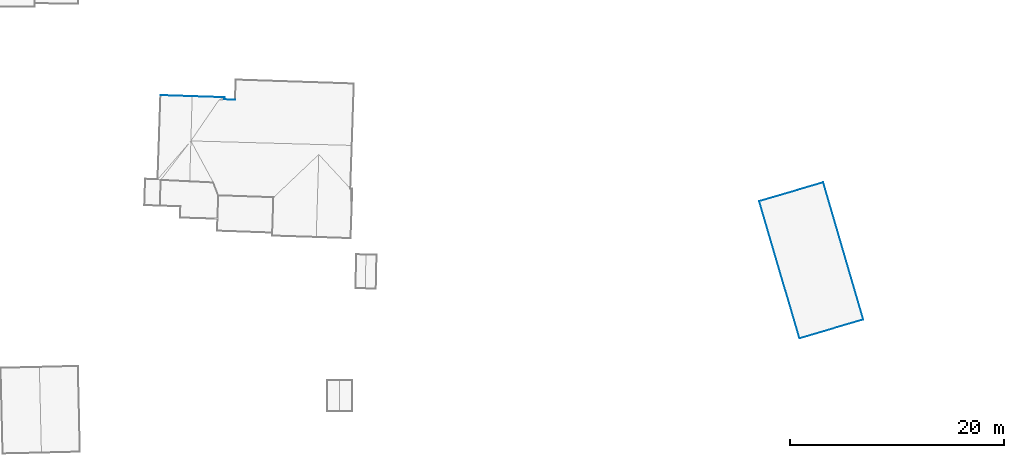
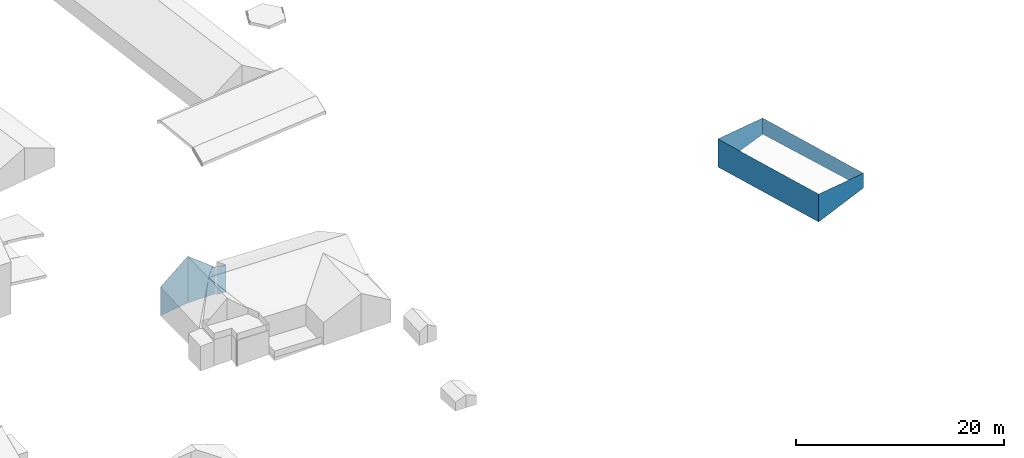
# Not in any storey, part 13 of 59: 7 walls.
"""IFC4 building model written with IfcOpenShell, lengths in metres."""

from ifc_helpers import new_model, entity, si_unit, converted_unit, origin, place, context, subcontext, project, spatial, face_set, surface_model, element, save


model = new_model("IFC4")

# Units and contexts
model_context = context("Model", 3, precision=1e-05, world=origin())
body_context = subcontext(model_context, "Body", "Model", "MODEL_VIEW")
ifc_project = project(units=[converted_unit("PLANEANGLEUNIT", "DEGREE", entity("IfcRatioMeasure", 0.0174532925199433), si_unit("PLANEANGLEUNIT", "RADIAN"), dimensions=[0, 0, 0, 0, 0, 0, 0]), si_unit("AREAUNIT", "SQUARE_METRE"), si_unit("LENGTHUNIT", "METRE")], contexts=[model_context])

# Site, building
site_placement = place(None, origin())
site = spatial("IfcSite", under=ifc_project, at=site_placement, Name="_site")
building_1_placement = place(site_placement, origin())
building_1 = spatial("IfcBuilding", under=site, at=building_1_placement, Name="_building")

# Walls
wall_1_placement = place(building_1_placement, origin())
element("IfcWall", 1, at=wall_1_placement, inside=building_1, Name="Wall", PredefinedType="NOTDEFINED", context=body_context, shape_type="SurfaceModel", body=[
    surface_model("IfcFaceBasedSurfaceModel", [(175.89, 91.33, 219.84), (169.91, 89.57, 220.55), (169.91, 89.57, 217.276), (175.89, 91.33, 218.103)], [face_set([[[0, 1, 2, 3]]])]),
])
wall_2_placement = place(building_1_placement, origin())
element("IfcWall", 2, at=wall_2_placement, inside=building_1, Name="Wall", PredefinedType="NOTDEFINED", context=body_context, shape_type="SurfaceModel", body=[
    surface_model("IfcFaceBasedSurfaceModel", [(166.14, 102.41, 220.55), (172.13, 104.17, 219.84), (172.13, 104.17, 217.933), (166.14, 102.41, 217.257)], [face_set([[[0, 1, 2, 3]]])]),
])
wall_3_placement = place(building_1_placement, origin())
element("IfcWall", 3, at=wall_3_placement, inside=building_1, Name="Wall", PredefinedType="NOTDEFINED", context=body_context, shape_type="SurfaceModel", body=[
    surface_model("IfcFaceBasedSurfaceModel", [(169.91, 89.57, 220.55), (166.14, 102.41, 220.55), (166.14, 102.41, 217.257), (169.91, 89.57, 217.276)], [face_set([[[0, 1, 2, 3]]])]),
])
wall_4_placement = place(building_1_placement, origin())
element("IfcWall", 4, at=wall_4_placement, inside=building_1, Name="Wall", PredefinedType="NOTDEFINED", context=body_context, shape_type="SurfaceModel", body=[
    surface_model("IfcFaceBasedSurfaceModel", [(172.13, 104.17, 219.84), (175.89, 91.33, 219.84), (175.89, 91.33, 218.103), (172.13, 104.17, 217.933)], [face_set([[[0, 1, 2, 3]]])]),
])

# Building
building_2_placement = place(site_placement, origin())
building_2 = spatial("IfcBuilding", under=site, at=building_2_placement, Name="_building")

# Walls
wall_5_placement = place(building_2_placement, origin())
element("IfcWall", 5, at=wall_5_placement, inside=building_2, Name="Wall", PredefinedType="NOTDEFINED", context=body_context, shape_type="SurfaceModel", body=[
    surface_model("IfcFaceBasedSurfaceModel", [(113.02, 112.24, 219.44), (116.05, 112.141, 217.13), (116.05, 112.141, 214.039), (113.02, 112.24, 213.935)], [face_set([[[0, 1, 2, 3]]])]),
])
wall_6_placement = place(building_2_placement, origin())
element("IfcWall", 6, at=wall_6_placement, inside=building_2, Name="Wall", PredefinedType="NOTDEFINED", context=body_context, shape_type="SurfaceModel", body=[
    surface_model("IfcFaceBasedSurfaceModel", [(110.06, 112.34, 216.8), (113.02, 112.24, 219.44), (113.02, 112.24, 213.935), (110.06, 112.34, 213.446)], [face_set([[[0, 1, 2, 3]]])]),
])
wall_7_placement = place(building_2_placement, origin())
element("IfcWall", 7, at=wall_7_placement, inside=building_2, Name="Wall", PredefinedType="NOTDEFINED", context=body_context, shape_type="SurfaceModel", body=[
    surface_model("IfcFaceBasedSurfaceModel", [(116.04, 111.949, 217.2), (117.05, 111.91, 217.2), (117.05, 111.91, 214.054), (116.04, 111.949, 214.042)], [face_set([[[0, 1, 2, 3]]])]),
])

save(model, "model.ifc")
